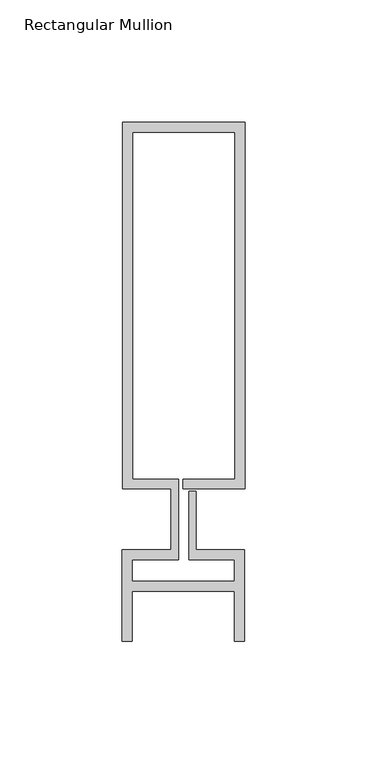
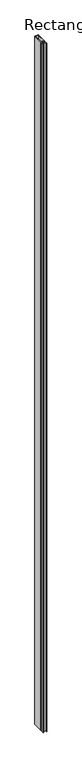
"""IFC4 building model written with IfcOpenShell, lengths in millimetres: member geometry, Rectangular Mullion : Reynaers_CW-50_Mullion-Transom_Vertical_149.8mm_Facecap-03."""

from ifc_helpers import new_model, si_unit, frame, origin, place, context, project, spatial, polyline, outline, extrude, source, transform, mapped, element, save


def rectangular_mullion_2c88a467(model_context):
    return source(origin(), model_context, "Body", "SweptSolid", [
        extrude(outline(polyline([(-24.8004059, 162.3), (25.1995941, 162.3), (25.1995941, 12.5), (0.0, 12.5), (0.0, 16.5), (21.1995941, 16.5), (21.1995941, 158.3), (-20.8004059, 158.3), (-20.8004059, 16.5), (-1.9004059, 16.5), (-1.9004059, -16.5), (-20.994845, -16.5), (-20.994845, -25.3268728), (20.994845, -25.3268728), (20.994845, -16.5), (2.2995941, -16.5), (2.2995941, 11.5), (5.2995941, 11.5), (5.2995941, -12.5), (24.994845, -12.5), (24.994845, -49.8), (20.994845, -49.8), (20.994845, -29.3268728), (-20.994845, -29.3268728), (-20.994845, -49.8), (-24.994845, -49.8), (-24.994845, -12.5), (-4.9004059, -12.5), (-4.9004059, 12.5), (-24.8004059, 12.5), (-24.8004059, 162.3)])), frame((0.0, 0.0, -10400.0), z_axis=(0.0, 0.0, 1.0), x_axis=(1.0, 0.0, 0.0)), (0.0, 0.0, 1.0), 10400.0),
    ])


if __name__ == "__main__":
    model = new_model("IFC4")
    model_context = context("Model", 3, world=origin())
    ifc_project = project(units=[si_unit("LENGTHUNIT", "METRE", prefix="MILLI")], contexts=[model_context])
    site = spatial("IfcSite", under=ifc_project)
    building = spatial("IfcBuilding", under=site)
    placement = place(None, origin())
    rectangular_mullion_shape = rectangular_mullion_2c88a467(model_context)
    element("IfcMember", 1, ObjectType="Rectangular Mullion : Reynaers_CW-50_Mullion-Transom_Vertical_149.8mm_Facecap-03", at=placement, inside=building, context=model_context, shape_type="MappedRepresentation", body=[
        mapped(rectangular_mullion_shape, transform((0.0, 0.0, 0.0), x_axis=(1.0, 0.0, 0.0), y_axis=(0.0, 1.0, 0.0), z_axis=(0.0, 0.0, 1.0))),
    ])
    save(model, "model.ifc")
